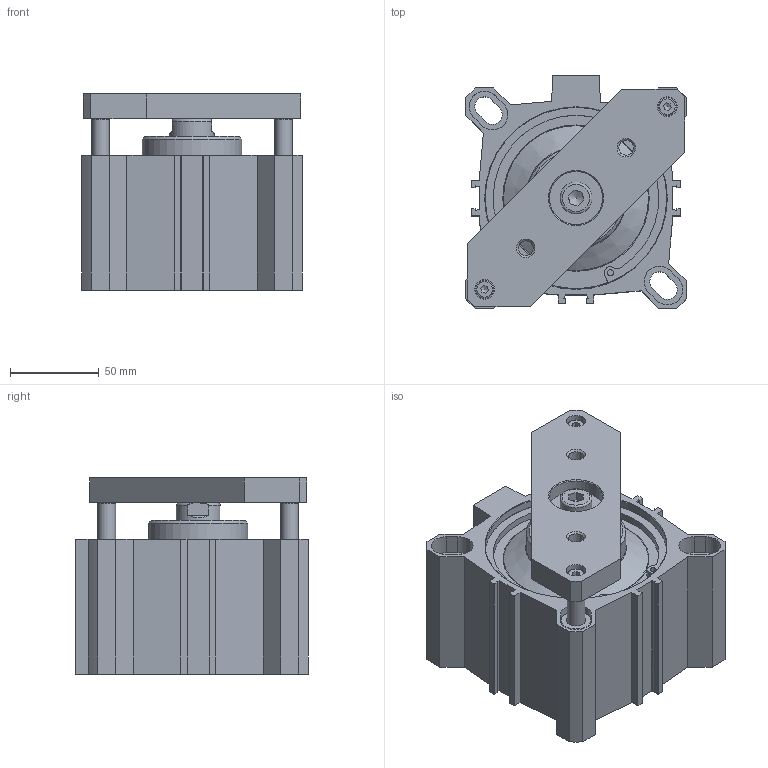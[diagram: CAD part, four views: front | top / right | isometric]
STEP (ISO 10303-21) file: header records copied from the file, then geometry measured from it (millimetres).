
FILE_DESCRIPTION(/* description */ ('Unknown'),/* implementation_level */ '2;1');
FILE_NAME(/* name */ 'FINT 100_20',/* time_stamp */ '2026-05-12T12:23:09+02:00',/* author */ ('Unknown'),/* organization */ ('Unknown'),/* preprocessor_version */ 'ST-DEVELOPER v18.102',/* originating_system */ 'Solid Edge',/* authorisation */ 'Unknown');
FILE_SCHEMA (('AUTOMOTIVE_DESIGN {1 0 10303 214 3 1 1}'));
Length unit declared in the file: millimetre
Products named in the file (7): FINT 100_20; Kolbenstange; Profilrohr; Kit_1; Kit_2; Platte; Führungsstange
Assembly tree (7 placements, depth 2):
  FINT 100_20
    Kolbenstange
    Profilrohr
    Kit_1
    Kit_2
    Platte
    Führungsstange  x2
Bounding box: 124 x 131 x 110.5 mm (x, y, z)
Volume: 832820.8 mm3; surface area: 209199.7 mm2
Topology: 9 solids, 9 shells, 361 faces, 878 edges, 565 vertices
Faces by surface type: plane 178, cylinder 113, cone 54, torus 16
Full cylindrical faces by diameter (mm): 3.5 x4, 4.917 x2, 5.25 x2, 6 x2, 7 x2, 8.376 x2, 10 x6, 10.106 x1, 11 x2, 11.445 x4, 17.8 x2, 18 x1, 25 x1, 25.6 x1, 26.9 x1, 28 x1, 29.8 x1, 30 x2, 56 x1, 80 x1, 100 x2, 101.7 x4, 102.2 x2, 106.2 x2
Entity records: 12156 total; most frequent: CARTESIAN_POINT 1822, DIRECTION 1710, ORIENTED_EDGE 1454, EDGE_CURVE 727, AXIS2_PLACEMENT_3D 652, VERTEX_POINT 536, FACE_BOUND 523, EDGE_LOOP 518
